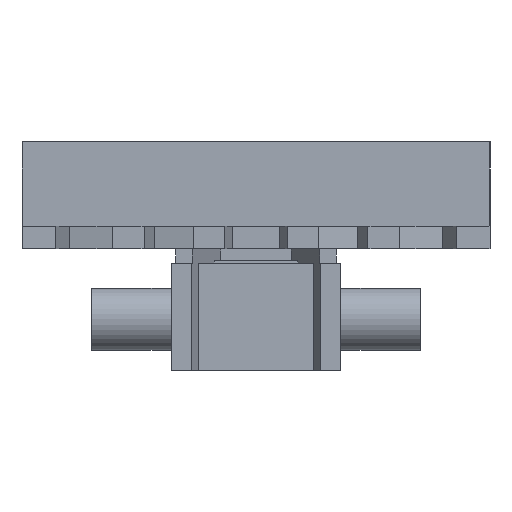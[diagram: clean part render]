
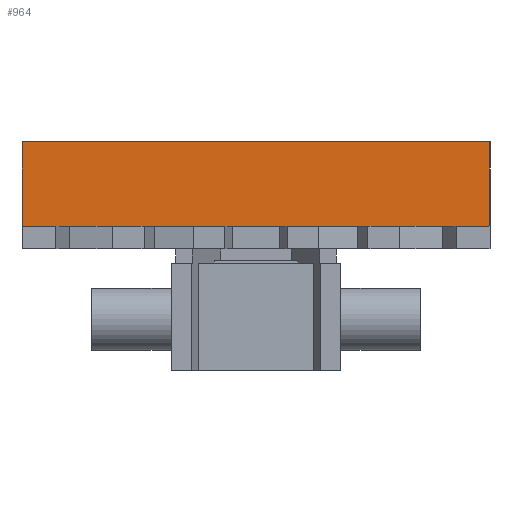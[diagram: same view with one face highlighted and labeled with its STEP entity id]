
A CAD part, left-side view. The second image highlights one B-rep face of the part: STEP entity #964.
In plain terms, the highlighted planar face has unit normal (-1, 0, 0).
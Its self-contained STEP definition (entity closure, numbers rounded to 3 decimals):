
#964 = ADVANCED_FACE ( 'NONE', ( #2789 ), #2523, .T. ) ;
#977 = EDGE_CURVE ( 'NONE', #983, #990, #2834, .T. ) ;
#978 = ORIENTED_EDGE ( 'NONE', *, *, #992, .T. ) ;
#979 = ORIENTED_EDGE ( 'NONE', *, *, #977, .T. ) ;
#981 = ORIENTED_EDGE ( 'NONE', *, *, #982, .T. ) ;
#982 = EDGE_CURVE ( 'NONE', #984, #983, #2871, .T. ) ;
#983 = VERTEX_POINT ( 'NONE', #2864 ) ;
#984 = VERTEX_POINT ( 'NONE', #2854 ) ;
#988 = EDGE_LOOP ( 'NONE', ( #981, #979, #978, #1033 ) ) ;
#990 = VERTEX_POINT ( 'NONE', #2830 ) ;
#992 = EDGE_CURVE ( 'NONE', #990, #993, #2840, .T. ) ;
#993 = VERTEX_POINT ( 'NONE', #2857 ) ;
#1016 = EDGE_CURVE ( 'NONE', #993, #984, #2619, .T. ) ;
#1033 = ORIENTED_EDGE ( 'NONE', *, *, #1016, .T. ) ;
#2243 = CARTESIAN_POINT ( 'NONE',  ( -3.825, -41.5, 42.5 ) ) ;
#2346 = DIRECTION ( 'NONE',  ( -1., 0., 0. ) ) ;
#2454 = DIRECTION ( 'NONE',  ( 0., -1., 0. ) ) ;
#2522 = AXIS2_PLACEMENT_3D ( 'NONE', #2243, #2346, #2454 ) ;
#2523 = PLANE ( 'NONE',  #2522 ) ;
#2619 = LINE ( 'NONE', #2676, #2668 ) ;
#2668 = VECTOR ( 'NONE', #2727, 1000. ) ;
#2676 = CARTESIAN_POINT ( 'NONE',  ( -3.825, 41.5, 42.5 ) ) ;
#2727 = DIRECTION ( 'NONE',  ( 0., 0., -1. ) ) ;
#2789 = FACE_OUTER_BOUND ( 'NONE', #988, .T. ) ;
#2830 = CARTESIAN_POINT ( 'NONE',  ( -3.825, -41.5, 57.5 ) ) ;
#2834 = LINE ( 'NONE', #2858, #2835 ) ;
#2835 = VECTOR ( 'NONE', #2842, 1000. ) ;
#2839 = CARTESIAN_POINT ( 'NONE',  ( -3.825, -41.5, 57.5 ) ) ;
#2840 = LINE ( 'NONE', #2839, #2863 ) ;
#2841 = VECTOR ( 'NONE', #2865, 1000. ) ;
#2842 = DIRECTION ( 'NONE',  ( 0., 0., 1. ) ) ;
#2843 = CARTESIAN_POINT ( 'NONE',  ( -3.825, -41.5, 42.5 ) ) ;
#2854 = CARTESIAN_POINT ( 'NONE',  ( -3.825, 41.5, 42.5 ) ) ;
#2857 = CARTESIAN_POINT ( 'NONE',  ( -3.825, 41.5, 57.5 ) ) ;
#2858 = CARTESIAN_POINT ( 'NONE',  ( -3.825, -41.5, 42.5 ) ) ;
#2862 = DIRECTION ( 'NONE',  ( 0., 1., 0. ) ) ;
#2863 = VECTOR ( 'NONE', #2862, 1000. ) ;
#2864 = CARTESIAN_POINT ( 'NONE',  ( -3.825, -41.5, 42.5 ) ) ;
#2865 = DIRECTION ( 'NONE',  ( 0., -1., 0. ) ) ;
#2871 = LINE ( 'NONE', #2843, #2841 ) ;
